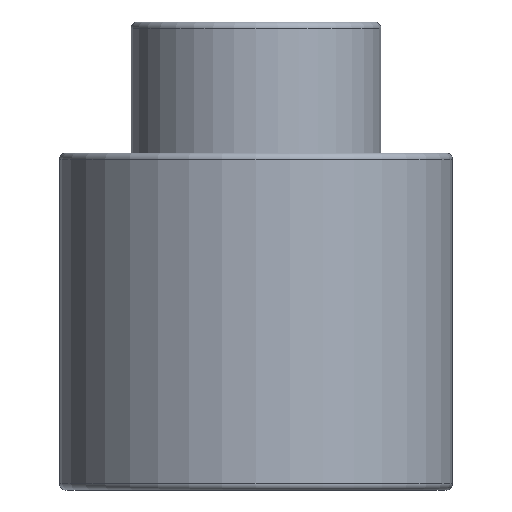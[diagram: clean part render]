
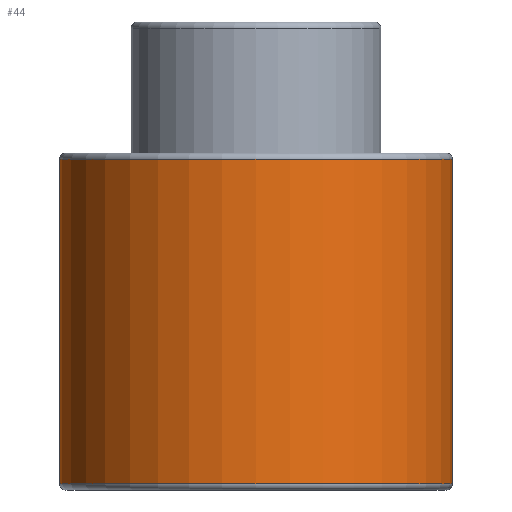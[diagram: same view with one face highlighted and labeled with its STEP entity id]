
A CAD part, front view. The second image highlights one B-rep face of the part: STEP entity #44.
In plain terms, the highlighted cylindrical face has radius 31.5 mm (diameter 63 mm), a full revolution.
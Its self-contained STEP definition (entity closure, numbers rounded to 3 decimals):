
#44=ADVANCED_FACE('',(#60,#61),#56,.T.);
#56=CYLINDRICAL_SURFACE('',#166,31.5);
#60=FACE_BOUND('',#84,.T.);
#61=FACE_BOUND('',#85,.T.);
#84=EDGE_LOOP('',(#106));
#85=EDGE_LOOP('',(#107));
#106=ORIENTED_EDGE('',*,*,#141,.F.);
#107=ORIENTED_EDGE('',*,*,#142,.T.);
#128=VERTEX_POINT('',#237);
#129=VERTEX_POINT('',#239);
#141=EDGE_CURVE('',#128,#128,#152,.T.);
#142=EDGE_CURVE('',#129,#129,#153,.T.);
#152=CIRCLE('',#164,31.5);
#153=CIRCLE('',#165,31.5);
#164=AXIS2_PLACEMENT_3D('',#236,#189,#190);
#165=AXIS2_PLACEMENT_3D('',#238,#191,#192);
#166=AXIS2_PLACEMENT_3D('',#240,#193,#194);
#189=DIRECTION('',(0.,0.,-1.));
#190=DIRECTION('',(-1.,0.,0.));
#191=DIRECTION('',(0.,0.,-1.));
#192=DIRECTION('',(-1.,0.,0.));
#193=DIRECTION('',(0.,0.,-1.));
#194=DIRECTION('',(-1.,0.,0.));
#236=CARTESIAN_POINT('',(0.,0.,1.));
#237=CARTESIAN_POINT('',(-31.5,0.,1.));
#238=CARTESIAN_POINT('',(0.,0.,53.));
#239=CARTESIAN_POINT('',(-31.5,0.,53.));
#240=CARTESIAN_POINT('',(0.,0.,0.));
